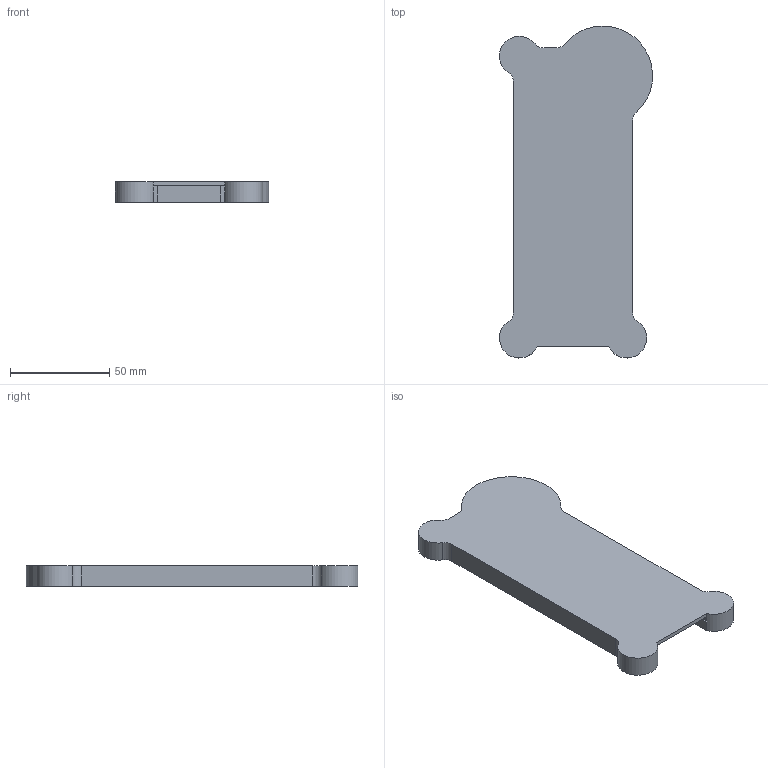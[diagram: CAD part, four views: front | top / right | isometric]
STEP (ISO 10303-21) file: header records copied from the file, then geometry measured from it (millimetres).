
FILE_DESCRIPTION(/* description */ ('','CAx-IF Rec.Pracs.---Representation and Presentation of Product Manufacturing Information (PMI)---4.0---2014-10-13'),/* implementation_level */ '2;1');
FILE_NAME(/* name */ 'scatola_esp32_c3_breadboard.stp',/* time_stamp */ '2026-06-07T09:55:58+02:00',/* author */ ('R5800u'),/* organization */ (''),/* preprocessor_version */ 'ST-DEVELOPER v20',/* originating_system */ 'Autodesk Inventor 2025',/* authorisation */ '');
FILE_SCHEMA (('AP242_MANAGED_MODEL_BASED_3D_ENGINEERING_MIM_LF { 1 0 10303 442 1 1 4 }'));
Length unit declared in the file: millimetre
Products named in the file (1): scatola_esp32_c3_breadboard
Bounding box: 76.99 x 166.85 x 10.5 mm (x, y, z)
Volume: 42113.1 mm3; surface area: 28333.9 mm2
Topology: 1 solids, 1 shells, 58 faces, 155 edges, 99 vertices
Faces by surface type: plane 30, cylinder 21, cone 7
Full cylindrical faces by diameter (mm): 1.8 x7
Entity records: 1893 total; most frequent: DIRECTION 334, CARTESIAN_POINT 323, ORIENTED_EDGE 296, EDGE_CURVE 148, AXIS2_PLACEMENT_3D 114, LINE 106, VECTOR 106, VERTEX_POINT 99
